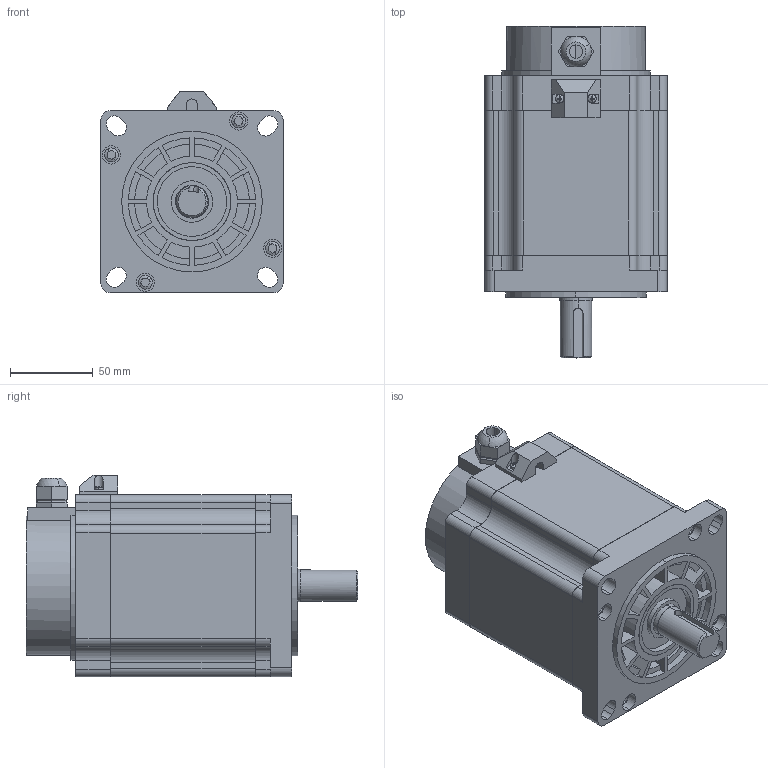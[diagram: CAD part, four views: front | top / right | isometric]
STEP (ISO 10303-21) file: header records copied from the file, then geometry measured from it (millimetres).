
FILE_DESCRIPTION (( 'STEP AP203' ), '1' );
FILE_NAME ('110-12N闭环.STEP', '2026-01-20T01:19:09', ( '微软用户' ), ( '微软中国' ), 'SwSTEP 2.0', 'SolidWorks 2022', '' );
FILE_SCHEMA (( 'CONFIG_CONTROL_DESIGN' ));
Length unit declared in the file: millimetre
Products named in the file (12): 40070010; 20030995; 11; M6蹟裝110; 110-12N敕遠; 20150005; 20080014; 40070127; 40010174      110H87.5; 12; GB_CROSS_SCREWS_TYPE1 M2.5X6-6  H type-S_GB_CROSS_SCREWS_TYPE1 M2.5X6-6  H type-S; 40070126
Assembly tree (17 placements, depth 2):
  110-12N敕遠
    40070126
    40070010
    20150005
    20080014
    40070127
    11  x3
    40010174      110H87.5
    20030995
    M6蹟裝110  x4
    12
    GB_CROSS_SCREWS_TYPE1 M2.5X6-6  H type-S_GB_CROSS_SCREWS_TYPE1 M2.5X6-6  H type-S  x2
Bounding box: 110 x 200.5 x 121.6 mm (x, y, z)
Volume: 1533291.9 mm3; surface area: 222777.9 mm2
Topology: 17 solids, 17 shells, 1084 faces, 2742 edges, 1731 vertices
Faces by surface type: cylinder 569, plane 312, cone 167, sphere 20, bspline 16
Entity records: 27542 total; most frequent: CARTESIAN_POINT 10206, DIRECTION 3435, ORIENTED_EDGE 3300, EDGE_CURVE 1650, AXIS2_PLACEMENT_3D 1280, VERTEX_POINT 1048, VECTOR 875, LINE 875
